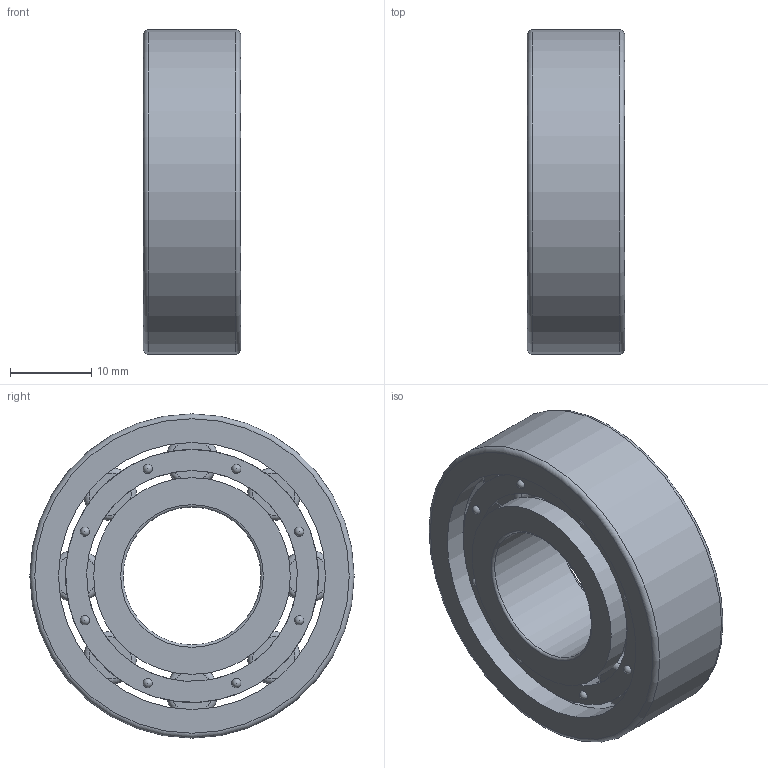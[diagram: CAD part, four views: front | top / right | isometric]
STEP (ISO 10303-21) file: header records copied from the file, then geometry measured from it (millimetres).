
FILE_DESCRIPTION(/* description */ (''),/* implementation_level */ '2;1');
FILE_NAME(/* name */ 'D:\BASISTA_PLOCHA\PARAMETRICKE PRE STP\STEP-PRE BELESTAKA\NJ\NJ203E.stp',/* time_stamp */ '2020-02-18T10:06:55+01:00',/* author */ ('OUBASISTA'),/* organization */ (''),/* preprocessor_version */ 'ST-DEVELOPER v17.2',/* originating_system */ 'Autodesk Inventor 2019',/* authorisation */ '');
FILE_SCHEMA (('AUTOMOTIVE_DESIGN { 1 0 10303 214 3 1 1 }'));
Length unit declared in the file: millimetre
Products named in the file (8): NJ203M; NJ203M-02; NJ203M-roller; NJ203M-01; NJ203M-M,EMcage; NJ203M-M,EMcage01; NJ203M-M,EMcage02; NJ203M-M,EMcage03
Assembly tree (21 placements, depth 3):
  NJ203M
    NJ203M-02
    NJ203M-roller  x8
    NJ203M-01
    NJ203M-M,EMcage
      NJ203M-M,EMcage01
      NJ203M-M,EMcage02
      NJ203M-M,EMcage03  x8
Bounding box: 12 x 40 x 40 mm (x, y, z)
Volume: 8839.7 mm3; surface area: 9518.9 mm2
Topology: 20 solids, 20 shells, 154 faces, 422 edges, 310 vertices
Faces by surface type: cylinder 59, plane 58, torus 20, sphere 16, cone 1
Full cylindrical faces by diameter (mm): 0.65 x24, 6.5 x8, 17 x1, 22.1 x1, 24.267 x1, 26 x2, 31.2 x2, 32.933 x2, 35.1 x1, 40 x1
Entity records: 3365 total; most frequent: DIRECTION 640, CARTESIAN_POINT 521, ORIENTED_EDGE 476, AXIS2_PLACEMENT_3D 289, EDGE_CURVE 238, CIRCLE 176, VERTEX_POINT 170, EDGE_LOOP 128
